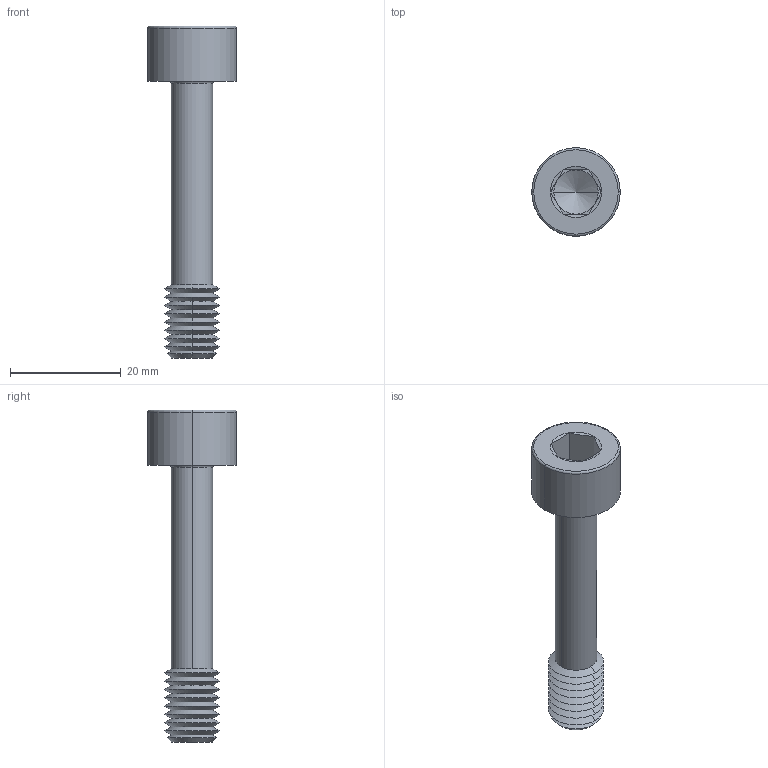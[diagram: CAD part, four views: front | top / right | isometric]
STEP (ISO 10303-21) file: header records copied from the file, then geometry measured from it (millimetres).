
FILE_DESCRIPTION (( 'STEP AP203' ), '1' );
FILE_NAME ('P0154.100-050-BL.step', '2024-06-17T11:34:54', ( '' ), ( '' ), 'SwSTEP 2.0', 'SolidWorks 2019', '' );
FILE_SCHEMA (( 'CONFIG_CONTROL_DESIGN' ));
Length unit declared in the file: millimetre
Products named in the file (1): P0154.100-050-BL
Bounding box: 16 x 16 x 60 mm (x, y, z)
Volume: 3935.7 mm3; surface area: 2692.8 mm2
Topology: 1 solids, 1 shells, 67 faces, 136 edges, 71 vertices
Faces by surface type: cone 44, plane 15, torus 4, cylinder 4
Entity records: 1791 total; most frequent: DIRECTION 332, CARTESIAN_POINT 303, ORIENTED_EDGE 268, AXIS2_PLACEMENT_3D 136, EDGE_CURVE 134, VERTEX_POINT 71, EDGE_LOOP 69, CIRCLE 68
